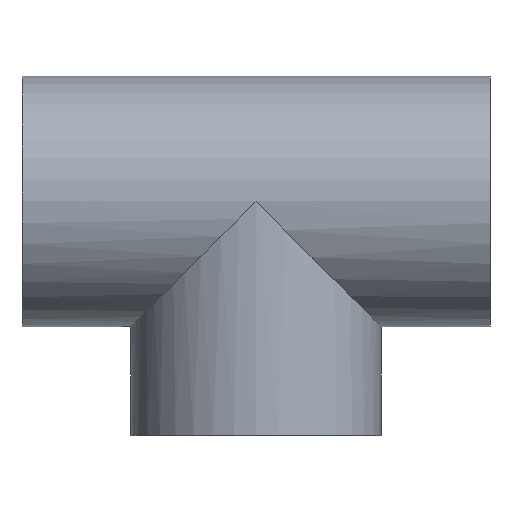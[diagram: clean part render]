
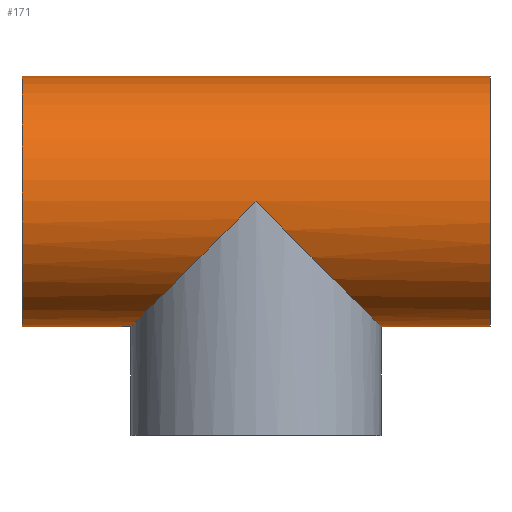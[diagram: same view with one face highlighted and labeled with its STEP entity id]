
A CAD part, top view. The second image highlights one B-rep face of the part: STEP entity #171.
In plain terms, the highlighted cylindrical face has radius 38 mm (diameter 76 mm), a full revolution.
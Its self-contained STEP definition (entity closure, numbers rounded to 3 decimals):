
#17=ELLIPSE('',#199,53.74,38.);
#18=ELLIPSE('',#200,53.74,38.);
#32=FACE_BOUND('',#68,.T.);
#33=FACE_BOUND('',#69,.T.);
#47=FACE_OUTER_BOUND('',#67,.T.);
#67=EDGE_LOOP('',(#140));
#68=EDGE_LOOP('',(#141,#142));
#69=EDGE_LOOP('',(#143));
#90=CIRCLE('',#198,38.);
#91=CIRCLE('',#201,38.);
#104=VERTEX_POINT('',#299);
#105=VERTEX_POINT('',#301);
#106=VERTEX_POINT('',#302);
#107=VERTEX_POINT('',#305);
#120=EDGE_CURVE('',#104,#104,#90,.T.);
#121=EDGE_CURVE('',#105,#106,#17,.T.);
#122=EDGE_CURVE('',#106,#105,#18,.T.);
#123=EDGE_CURVE('',#107,#107,#91,.T.);
#140=ORIENTED_EDGE('',*,*,#120,.F.);
#141=ORIENTED_EDGE('',*,*,#121,.T.);
#142=ORIENTED_EDGE('',*,*,#122,.T.);
#143=ORIENTED_EDGE('',*,*,#123,.F.);
#161=CYLINDRICAL_SURFACE('',#197,38.);
#171=ADVANCED_FACE('',(#47,#32,#33),#161,.T.);
#197=AXIS2_PLACEMENT_3D('',#298,#246,#247);
#198=AXIS2_PLACEMENT_3D('',#300,#248,#249);
#199=AXIS2_PLACEMENT_3D('',#303,#250,#251);
#200=AXIS2_PLACEMENT_3D('',#304,#252,#253);
#201=AXIS2_PLACEMENT_3D('',#306,#254,#255);
#246=DIRECTION('center_axis',(1.,0.,0.));
#247=DIRECTION('ref_axis',(0.,-1.,0.));
#248=DIRECTION('center_axis',(-1.,0.,0.));
#249=DIRECTION('ref_axis',(0.,-1.,0.));
#250=DIRECTION('center_axis',(-0.707,0.707,0.));
#251=DIRECTION('ref_axis',(-0.707,-0.707,0.));
#252=DIRECTION('center_axis',(0.707,0.707,0.));
#253=DIRECTION('ref_axis',(-0.707,0.707,0.));
#254=DIRECTION('center_axis',(1.,0.,0.));
#255=DIRECTION('ref_axis',(0.,-1.,0.));
#298=CARTESIAN_POINT('Origin',(0.,0.,0.));
#299=CARTESIAN_POINT('',(-71.,38.,0.));
#300=CARTESIAN_POINT('Origin',(-71.,0.,0.));
#301=CARTESIAN_POINT('',(0.,0.,-38.));
#302=CARTESIAN_POINT('',(0.,0.,38.));
#303=CARTESIAN_POINT('Origin',(0.,0.,0.));
#304=CARTESIAN_POINT('Origin',(0.,0.,0.));
#305=CARTESIAN_POINT('',(71.,38.,0.));
#306=CARTESIAN_POINT('Origin',(71.,0.,0.));
